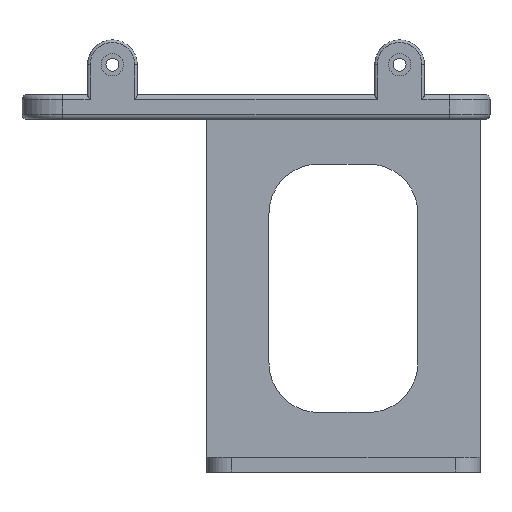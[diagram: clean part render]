
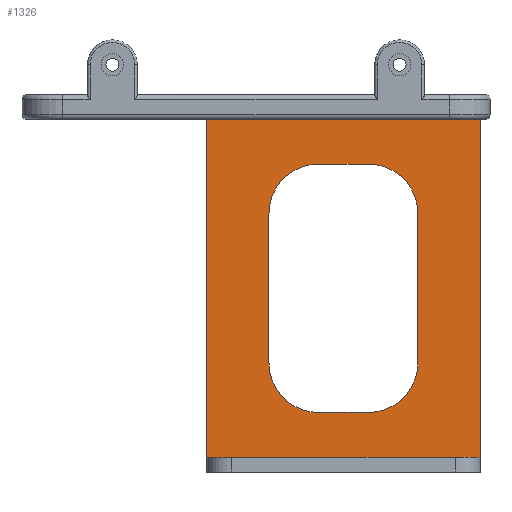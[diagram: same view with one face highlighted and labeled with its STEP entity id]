
A CAD part, front view. The second image highlights one B-rep face of the part: STEP entity #1326.
In plain terms, the highlighted planar face has unit normal (0, -1, 0).
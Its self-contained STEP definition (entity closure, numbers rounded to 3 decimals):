
#36=FACE_BOUND('',#233,.T.);
#63=PLANE('',#1487);
#142=FACE_OUTER_BOUND('',#232,.T.);
#232=EDGE_LOOP('',(#1200,#1201,#1202,#1203));
#233=EDGE_LOOP('',(#1204,#1205,#1206,#1207,#1208,#1209,#1210,#1211));
#276=LINE('',#2067,#385);
#280=LINE('',#2079,#389);
#286=LINE('',#2094,#395);
#289=LINE('',#2103,#398);
#319=LINE('',#2245,#428);
#340=LINE('',#2303,#449);
#345=LINE('',#2320,#454);
#347=LINE('',#2323,#456);
#385=VECTOR('',#1632,10.);
#389=VECTOR('',#1644,10.);
#395=VECTOR('',#1658,10.);
#398=VECTOR('',#1669,10.);
#428=VECTOR('',#1803,10.);
#449=VECTOR('',#1866,10.);
#454=VECTOR('',#1887,10.);
#456=VECTOR('',#1891,10.);
#481=CIRCLE('',#1391,10.);
#483=CIRCLE('',#1395,10.);
#485=CIRCLE('',#1399,10.);
#487=CIRCLE('',#1403,10.);
#573=VERTEX_POINT('',#2057);
#574=VERTEX_POINT('',#2058);
#577=VERTEX_POINT('',#2066);
#579=VERTEX_POINT('',#2072);
#581=VERTEX_POINT('',#2078);
#583=VERTEX_POINT('',#2084);
#584=VERTEX_POINT('',#2085);
#587=VERTEX_POINT('',#2096);
#629=VERTEX_POINT('',#2242);
#630=VERTEX_POINT('',#2244);
#646=VERTEX_POINT('',#2302);
#650=VERTEX_POINT('',#2319);
#714=EDGE_CURVE('',#573,#574,#481,.T.);
#718=EDGE_CURVE('',#577,#574,#276,.T.);
#721=EDGE_CURVE('',#577,#579,#483,.T.);
#724=EDGE_CURVE('',#581,#579,#280,.T.);
#727=EDGE_CURVE('',#583,#584,#485,.T.);
#732=EDGE_CURVE('',#573,#584,#286,.T.);
#733=EDGE_CURVE('',#581,#587,#487,.T.);
#737=EDGE_CURVE('',#583,#587,#289,.T.);
#800=EDGE_CURVE('',#630,#629,#319,.F.);
#829=EDGE_CURVE('',#646,#630,#340,.T.);
#837=EDGE_CURVE('',#650,#646,#345,.T.);
#839=EDGE_CURVE('',#650,#629,#347,.T.);
#1200=ORIENTED_EDGE('',*,*,#837,.T.);
#1201=ORIENTED_EDGE('',*,*,#829,.T.);
#1202=ORIENTED_EDGE('',*,*,#800,.T.);
#1203=ORIENTED_EDGE('',*,*,#839,.F.);
#1204=ORIENTED_EDGE('',*,*,#737,.T.);
#1205=ORIENTED_EDGE('',*,*,#733,.F.);
#1206=ORIENTED_EDGE('',*,*,#724,.T.);
#1207=ORIENTED_EDGE('',*,*,#721,.F.);
#1208=ORIENTED_EDGE('',*,*,#718,.T.);
#1209=ORIENTED_EDGE('',*,*,#714,.F.);
#1210=ORIENTED_EDGE('',*,*,#732,.T.);
#1211=ORIENTED_EDGE('',*,*,#727,.F.);
#1326=ADVANCED_FACE('',(#142,#36),#63,.T.);
#1391=AXIS2_PLACEMENT_3D('',#2059,#1624,#1625);
#1395=AXIS2_PLACEMENT_3D('',#2073,#1637,#1638);
#1399=AXIS2_PLACEMENT_3D('',#2086,#1649,#1650);
#1403=AXIS2_PLACEMENT_3D('',#2097,#1661,#1662);
#1487=AXIS2_PLACEMENT_3D('',#2322,#1889,#1890);
#1624=DIRECTION('center_axis',(0.,-1.,0.));
#1625=DIRECTION('ref_axis',(0.707,0.,0.707));
#1632=DIRECTION('',(1.,0.,0.));
#1637=DIRECTION('center_axis',(0.,-1.,0.));
#1638=DIRECTION('ref_axis',(-0.707,0.,0.707));
#1644=DIRECTION('',(0.,0.,1.));
#1649=DIRECTION('center_axis',(0.,-1.,0.));
#1650=DIRECTION('ref_axis',(0.707,0.,-0.707));
#1658=DIRECTION('',(0.,0.,-1.));
#1661=DIRECTION('center_axis',(0.,-1.,0.));
#1662=DIRECTION('ref_axis',(-0.707,0.,-0.707));
#1669=DIRECTION('',(-1.,0.,0.));
#1803=DIRECTION('',(1.,0.,0.));
#1866=DIRECTION('',(0.,0.,1.));
#1887=DIRECTION('',(1.,0.,0.));
#1889=DIRECTION('center_axis',(0.,-1.,0.));
#1890=DIRECTION('ref_axis',(1.,0.,0.));
#1891=DIRECTION('',(0.,0.,1.));
#2057=CARTESIAN_POINT('',(32.403,-147.101,17.539));
#2058=CARTESIAN_POINT('',(22.403,-147.101,27.539));
#2059=CARTESIAN_POINT('Origin',(22.403,-147.101,17.539));
#2066=CARTESIAN_POINT('',(12.403,-147.101,27.539));
#2067=CARTESIAN_POINT('',(-3.847,-147.101,27.539));
#2072=CARTESIAN_POINT('',(2.403,-147.101,17.539));
#2073=CARTESIAN_POINT('Origin',(12.403,-147.101,17.539));
#2078=CARTESIAN_POINT('',(2.403,-147.101,-12.461));
#2079=CARTESIAN_POINT('',(2.403,-147.101,-28.461));
#2084=CARTESIAN_POINT('',(22.403,-147.101,-22.461));
#2085=CARTESIAN_POINT('',(32.403,-147.101,-12.461));
#2086=CARTESIAN_POINT('Origin',(22.403,-147.101,-12.461));
#2094=CARTESIAN_POINT('',(32.403,-147.101,-3.461));
#2096=CARTESIAN_POINT('',(12.403,-147.101,-22.461));
#2097=CARTESIAN_POINT('Origin',(12.403,-147.101,-12.461));
#2103=CARTESIAN_POINT('',(11.153,-147.101,-22.461));
#2242=CARTESIAN_POINT('',(-10.097,-147.101,36.539));
#2244=CARTESIAN_POINT('',(44.903,-147.101,36.539));
#2245=CARTESIAN_POINT('',(3.653,-147.101,36.539));
#2302=CARTESIAN_POINT('',(44.903,-147.101,-31.461));
#2303=CARTESIAN_POINT('',(44.903,-147.101,-34.461));
#2319=CARTESIAN_POINT('',(-10.097,-147.101,-31.461));
#2320=CARTESIAN_POINT('',(3.653,-147.101,-31.461));
#2322=CARTESIAN_POINT('Origin',(-10.097,-147.101,-34.461));
#2323=CARTESIAN_POINT('',(-10.097,-147.101,-34.461));
